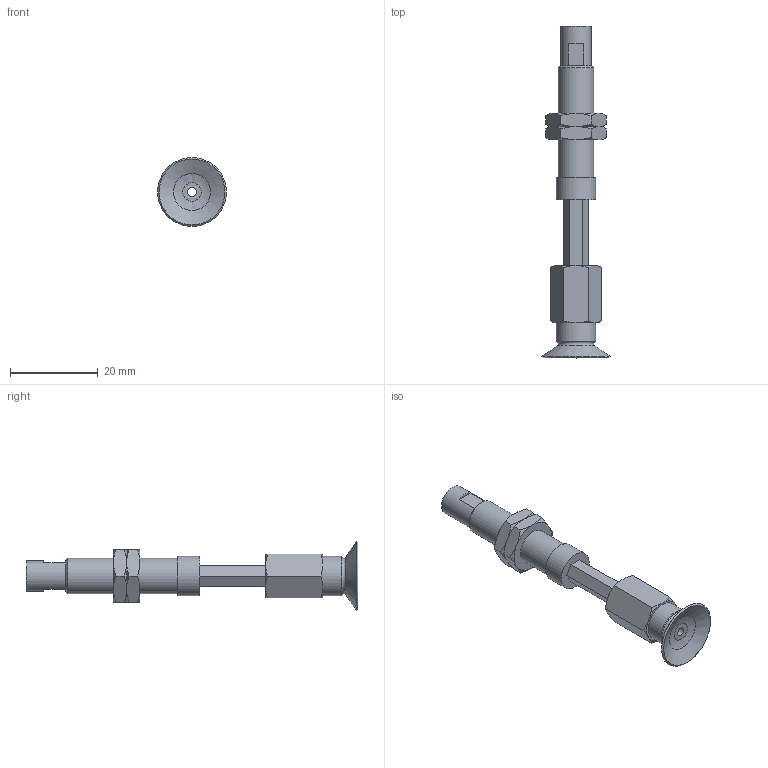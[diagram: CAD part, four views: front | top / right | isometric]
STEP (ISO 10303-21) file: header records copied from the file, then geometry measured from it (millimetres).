
FILE_DESCRIPTION(('STEP AP203'),'1');
FILE_NAME('.stp','2025-08-27T03:16:07',(' '),(' '),'Spatial InterOp 3D',' ',' ');
FILE_SCHEMA(('CONFIG_CONTROL_DESIGN'));
Length unit declared in the file: millimetre
Products named in the file (6): BNABPFTH-15A-15-※; ADAPTER; NAPATH-10A-15--M; Nut-15A-15-h; NAPFTH-15A-15-FBODY; BPFG-15A-※
Assembly tree (6 placements, depth 2):
  BNABPFTH-15A-15-※
    ADAPTER
    NAPATH-10A-15--M
    Nut-15A-15-h  x2
    NAPFTH-15A-15-FBODY
    BPFG-15A-※
Bounding box: 15.7 x 75.5 x 15.7 mm (x, y, z)
Volume: 4048.6 mm3; surface area: 4916.5 mm2
Topology: 6 solids, 6 shells, 123 faces, 264 edges, 160 vertices
Faces by surface type: plane 53, cone 46, cylinder 14, torus 9, bspline 1
Full cylindrical faces by diameter (mm): 2 x3, 4 x2, 4.134 x1, 6 x2, 7 x1, 7.188 x2, 8 x1, 9 x2
Entity records: 3003 total; most frequent: CARTESIAN_POINT 724, DIRECTION 412, ORIENTED_EDGE 354, AXIS2_PLACEMENT_3D 177, EDGE_CURVE 177, EDGE_LOOP 148, VERTEX_POINT 125, FACE_OUTER_BOUND 123
